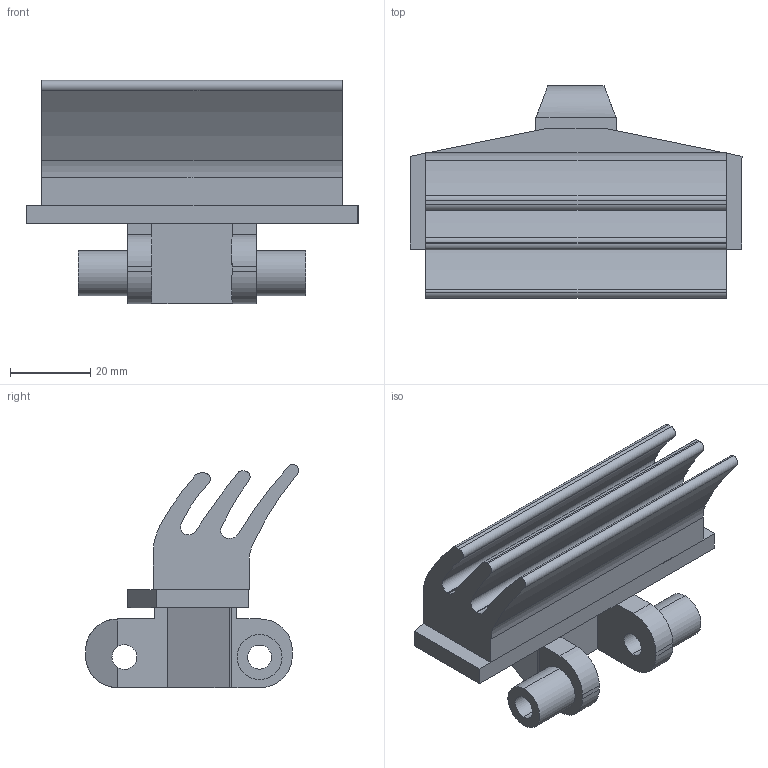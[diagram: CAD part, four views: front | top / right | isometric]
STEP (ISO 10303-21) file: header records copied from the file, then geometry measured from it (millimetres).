
FILE_DESCRIPTION (( 'STEP AP214' ), '1' );
FILE_NAME ('FMWT 5B.step', '2017-04-04T13:35:21', ( '' ), ( '' ), 'SwSTEP 2.0', 'SolidWorks 2015', '' );
FILE_SCHEMA (( 'AUTOMOTIVE_DESIGN' ));
Length unit declared in the file: millimetre
Products named in the file (1): FMWT 5B
Bounding box: 83 x 53.22 x 55.79 mm (x, y, z)
Volume: 68023.8 mm3; surface area: 22667.7 mm2
Topology: 1 solids, 1 shells, 82 faces, 227 edges, 148 vertices
Faces by surface type: plane 45, cylinder 37
Entity records: 2977 total; most frequent: CARTESIAN_POINT 476, DIRECTION 459, ORIENTED_EDGE 454, EDGE_CURVE 227, AXIS2_PLACEMENT_3D 155, VECTOR 149, LINE 149, VERTEX_POINT 148
